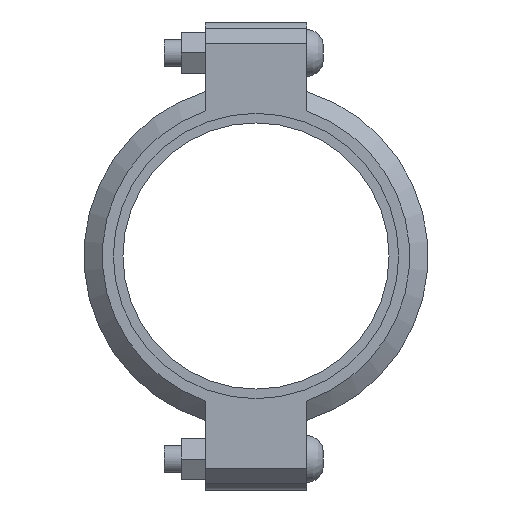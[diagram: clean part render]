
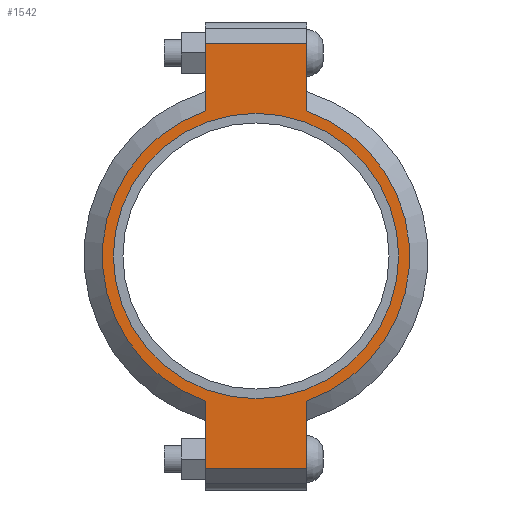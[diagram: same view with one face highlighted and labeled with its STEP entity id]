
A CAD part, left-side view. The second image highlights one B-rep face of the part: STEP entity #1542.
In plain terms, the highlighted planar face has unit normal (-1, 0, 0) as drawn and (0, 0, 1) by its records, which use the part's own axes.
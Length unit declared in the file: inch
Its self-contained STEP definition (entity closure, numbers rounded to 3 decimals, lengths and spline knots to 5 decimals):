
#166=LINE('',#2691,#259);
#174=LINE('',#2727,#267);
#181=LINE('',#2748,#274);
#190=LINE('',#2780,#283);
#191=LINE('',#2784,#284);
#192=LINE('',#2786,#285);
#259=VECTOR('',#2195,0.3937);
#267=VECTOR('',#2211,0.3937);
#274=VECTOR('',#2230,0.3937);
#283=VECTOR('',#2255,0.3937);
#284=VECTOR('',#2260,0.3937);
#285=VECTOR('',#2261,0.3937);
#341=FACE_BOUND('',#519,.T.);
#413=FACE_OUTER_BOUND('',#518,.T.);
#518=EDGE_LOOP('',(#1283,#1284,#1285,#1286,#1287,#1288,#1289,#1290));
#519=EDGE_LOOP('',(#1291));
#591=CIRCLE('',#1761,3.25);
#617=CIRCLE('',#1820,3.5);
#618=CIRCLE('',#1821,3.5);
#683=VERTEX_POINT('',#2507);
#726=VERTEX_POINT('',#2688);
#727=VERTEX_POINT('',#2690);
#738=VERTEX_POINT('',#2722);
#739=VERTEX_POINT('',#2726);
#746=VERTEX_POINT('',#2745);
#747=VERTEX_POINT('',#2747);
#757=VERTEX_POINT('',#2783);
#758=VERTEX_POINT('',#2785);
#839=EDGE_CURVE('',#683,#683,#591,.T.);
#900=EDGE_CURVE('',#727,#726,#166,.T.);
#914=EDGE_CURVE('',#739,#738,#174,.T.);
#924=EDGE_CURVE('',#747,#746,#181,.T.);
#939=EDGE_CURVE('',#739,#726,#190,.T.);
#940=EDGE_CURVE('',#738,#747,#617,.T.);
#941=EDGE_CURVE('',#757,#746,#191,.T.);
#942=EDGE_CURVE('',#757,#758,#192,.T.);
#943=EDGE_CURVE('',#758,#727,#618,.T.);
#1283=ORIENTED_EDGE('',*,*,#939,.F.);
#1284=ORIENTED_EDGE('',*,*,#914,.T.);
#1285=ORIENTED_EDGE('',*,*,#940,.T.);
#1286=ORIENTED_EDGE('',*,*,#924,.T.);
#1287=ORIENTED_EDGE('',*,*,#941,.F.);
#1288=ORIENTED_EDGE('',*,*,#942,.T.);
#1289=ORIENTED_EDGE('',*,*,#943,.T.);
#1290=ORIENTED_EDGE('',*,*,#900,.T.);
#1291=ORIENTED_EDGE('',*,*,#839,.T.);
#1384=PLANE('',#1819);
#1542=ADVANCED_FACE('',(#413,#341),#1384,.T.);
#1761=AXIS2_PLACEMENT_3D('',#2509,#2071,#2072);
#1819=AXIS2_PLACEMENT_3D('',#2781,#2256,#2257);
#1820=AXIS2_PLACEMENT_3D('',#2782,#2258,#2259);
#1821=AXIS2_PLACEMENT_3D('',#2787,#2262,#2263);
#2071=DIRECTION('center_axis',(0.,0.,-1.));
#2072=DIRECTION('ref_axis',(-1.,0.,0.));
#2195=DIRECTION('',(-1.,0.,0.));
#2211=DIRECTION('',(1.,0.,0.));
#2230=DIRECTION('',(1.,0.,0.));
#2255=DIRECTION('',(0.,1.,0.));
#2256=DIRECTION('center_axis',(0.,0.,1.));
#2257=DIRECTION('ref_axis',(1.,0.,0.));
#2258=DIRECTION('center_axis',(0.,0.,1.));
#2259=DIRECTION('ref_axis',(-1.,0.,0.));
#2260=DIRECTION('',(0.,-1.,0.));
#2261=DIRECTION('',(-1.,0.,0.));
#2262=DIRECTION('center_axis',(0.,0.,1.));
#2263=DIRECTION('ref_axis',(-1.,0.,0.));
#2507=CARTESIAN_POINT('',(3.25,0.,1.04));
#2509=CARTESIAN_POINT('Origin',(0.,0.,1.04));
#2688=CARTESIAN_POINT('',(-4.83,1.156,1.04));
#2690=CARTESIAN_POINT('',(-3.30358,1.156,1.04));
#2691=CARTESIAN_POINT('',(-5.33,1.156,1.04));
#2722=CARTESIAN_POINT('',(-3.30358,-1.156,1.04));
#2726=CARTESIAN_POINT('',(-4.83,-1.156,1.04));
#2727=CARTESIAN_POINT('',(5.33,-1.156,1.04));
#2745=CARTESIAN_POINT('',(4.83,-1.156,1.04));
#2747=CARTESIAN_POINT('',(3.30358,-1.156,1.04));
#2748=CARTESIAN_POINT('',(5.33,-1.156,1.04));
#2780=CARTESIAN_POINT('',(-4.83,0.578,1.04));
#2781=CARTESIAN_POINT('Origin',(0.,0.,1.04));
#2782=CARTESIAN_POINT('Origin',(0.,0.,1.04));
#2783=CARTESIAN_POINT('',(4.83,1.156,1.04));
#2784=CARTESIAN_POINT('',(4.83,-0.578,1.04));
#2785=CARTESIAN_POINT('',(3.30358,1.156,1.04));
#2786=CARTESIAN_POINT('',(-5.33,1.156,1.04));
#2787=CARTESIAN_POINT('Origin',(0.,0.,1.04));
